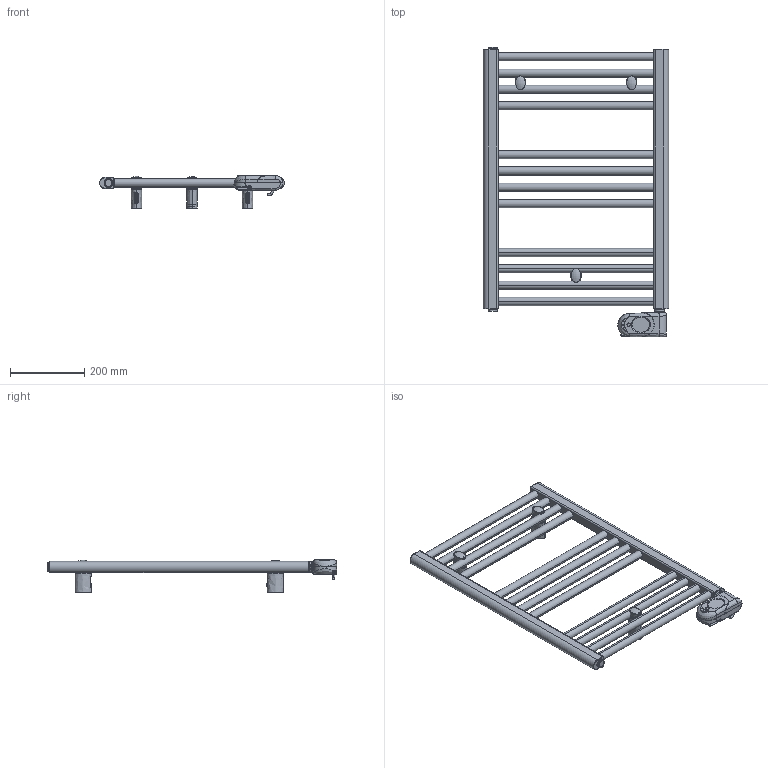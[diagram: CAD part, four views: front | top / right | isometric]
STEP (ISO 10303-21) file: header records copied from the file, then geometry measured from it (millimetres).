
FILE_DESCRIPTION((''),'2;1');
FILE_NAME('3581656100011_3D_SITO_ASM','2026-01-13T15:10:20',('PC132'),(''),'CREO PARAMETRIC BY PTC INC, 2025323','CREO PARAMETRIC BY PTC INC, 2025323','');
FILE_SCHEMA(('AUTOMOTIVE_DESIGN { 1 0 10303 214 1 1 1 1 }'));
Length unit declared in the file: millimetre
Products named in the file (17): 2551650500202_3D_SITO; BICCHIERE_PARETE; PERNO_SCORROVOLE; DADO_QUADRO_M5_X_GIUNTO; DADO_M6_X_GIUNTO; PERNO_SCORREVOLE_ASM; BASETTA_ANTERIORE; 1527181430001; VITE_CR_M5_16; VITE_CR_SV_M6_35; 1102001310058_ASM; 1010181240001; 11170_CODOLO_RES_MOD_3D_SITO; 1035270000037_FRONT; 1035270000037_BACK; 1035270000060_ASM; 3581656100011_3D_SITO_ASM
Assembly tree (19 placements, depth 4):
  3581656100011_3D_SITO_ASM
    2551650500202_3D_SITO
    1102001310058_ASM  x3
      BICCHIERE_PARETE
      PERNO_SCORREVOLE_ASM
        PERNO_SCORROVOLE
        DADO_QUADRO_M5_X_GIUNTO
        DADO_M6_X_GIUNTO
      BASETTA_ANTERIORE
      1527181430001
      VITE_CR_M5_16
      VITE_CR_SV_M6_35
    1010181240001  x2
    11170_CODOLO_RES_MOD_3D_SITO
    1035270000060_ASM
      1035270000037_FRONT
      1035270000037_BACK
Bounding box: 500 x 781.8 x 88.65 mm (x, y, z)
Volume: 3854421.5 mm3; surface area: 665105.1 mm2
Topology: 32 solids, 44 shells, 4956 faces, 10864 edges, 6015 vertices
Faces by surface type: cylinder 1908, plane 864, torus 764, sphere 641, bspline 609, cone 116, extrusion 54
Entity records: 108300 total; most frequent: CARTESIAN_POINT 41505, DIRECTION 9644, ORIENTED_EDGE 8156, PRESENTATION_STYLE_ASSIGNMENT 4192, STYLED_ITEM 4188, CURVE_STYLE 4171, EDGE_CURVE 4088, AXIS2_PLACEMENT_3D 4019
